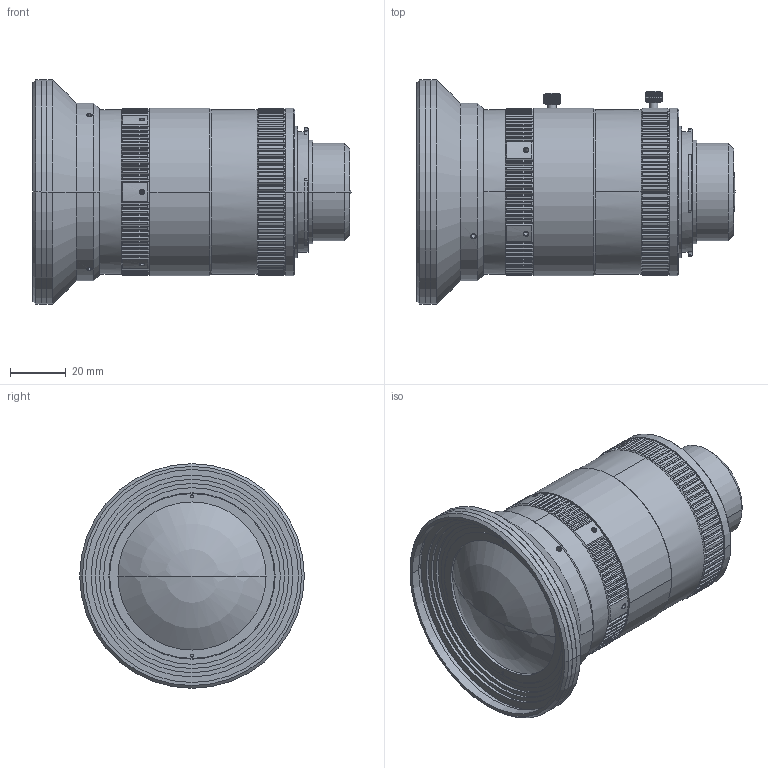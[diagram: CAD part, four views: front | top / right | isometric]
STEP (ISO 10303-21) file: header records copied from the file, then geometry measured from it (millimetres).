
FILE_DESCRIPTION((''),'2;1');
FILE_NAME('25MM-29M_ASM_ASM','2016-10-27T',('dcsongs'),(''),'CREO PARAMETRIC BY PTC INC, 2016130','CREO PARAMETRIC BY PTC INC, 2016130','');
FILE_SCHEMA(('CONFIG_CONTROL_DESIGN'));
Length unit declared in the file: millimetre
Products named in the file (17): LENS_7_1; LENS_7_7; LENS_7_ASM; SPACE_RING_7_ASM; FRONT_CLAMPED_RING_17; FRONT_LENS_BASE_49; FIXED_TUBE_84; FOCUSSING_RING_49; DIAPHRAGM_RING_70; BACK_LENS_BASE_17; F-CONNECTOR_52; FIXED_RING_42; M2-2YIZI_3; C-D_1; M3-4_8; 25MM-29M_ASM_199_ASM; 25MM-29M_ASM_ASM
Assembly tree (30 placements, depth 4):
  25MM-29M_ASM_ASM
    25MM-29M_ASM_199_ASM
      LENS_7_ASM
        LENS_7_1
        LENS_7_7
      SPACE_RING_7_ASM
      FRONT_CLAMPED_RING_17
      FRONT_LENS_BASE_49
      FIXED_TUBE_84
      FOCUSSING_RING_49
      DIAPHRAGM_RING_70
      BACK_LENS_BASE_17
      F-CONNECTOR_52
      FIXED_RING_42
      M2-2YIZI_3  x11
      C-D_1  x4
      M3-4_8  x2
Bounding box: 113.84 x 80.4 x 80.4 mm (x, y, z)
Volume: 115984 mm3; surface area: 85649.8 mm2
Topology: 27 solids, 48 shells, 1778 faces, 4838 edges, 3134 vertices
Faces by surface type: cylinder 690, plane 577, cone 402, bspline 101, sphere 8
Entity records: 55243 total; most frequent: CARTESIAN_POINT 15601, ORIENTED_EDGE 6618, DIRECTION 6359, EDGE_CURVE 3351, AXIS2_PLACEMENT_3D 2630, PRESENTATION_STYLE_ASSIGNMENT 2571, STYLED_ITEM 2571, CURVE_STYLE 2411
